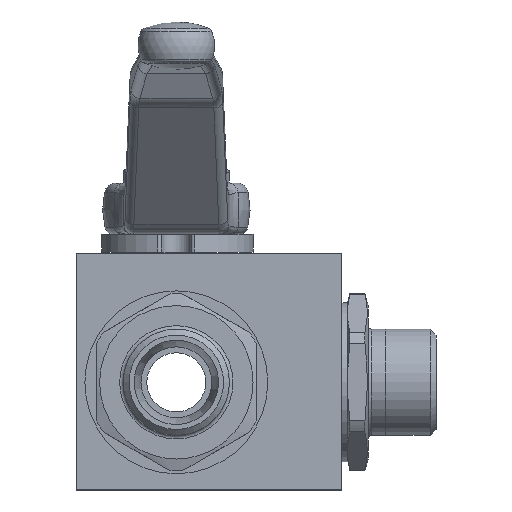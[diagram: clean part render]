
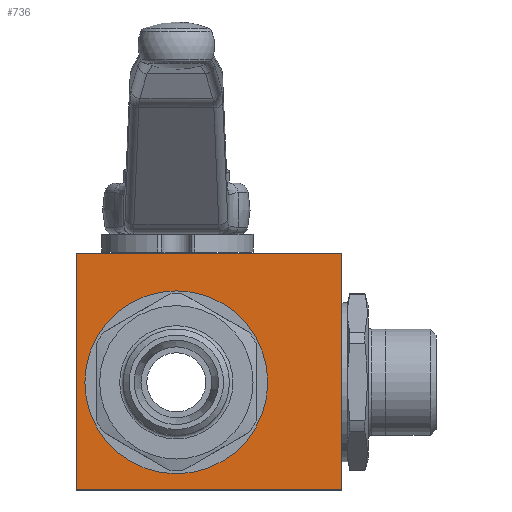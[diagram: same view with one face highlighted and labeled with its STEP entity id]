
A CAD part, front view. The second image highlights one B-rep face of the part: STEP entity #736.
In plain terms, the highlighted planar face has unit normal (0, -1, 0) as drawn and (0, 1, 0) by its records, which use the part's own axes.
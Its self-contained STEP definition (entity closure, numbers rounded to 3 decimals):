
#736 = ADVANCED_FACE( '', ( #1612, #1613 ), #1614, .F. );
#1612 = FACE_BOUND( '', #3035, .T. );
#1613 = FACE_OUTER_BOUND( '', #3036, .T. );
#1614 = PLANE( '', #3037 );
#3035 = EDGE_LOOP( '', ( #5331 ) );
#3036 = EDGE_LOOP( '', ( #5332, #5333, #5334, #5335 ) );
#3037 = AXIS2_PLACEMENT_3D( '', #5336, #5337, #5338 );
#5331 = ORIENTED_EDGE( '', *, *, #7529, .F. );
#5332 = ORIENTED_EDGE( '', *, *, #7855, .F. );
#5333 = ORIENTED_EDGE( '', *, *, #7856, .F. );
#5334 = ORIENTED_EDGE( '', *, *, #7857, .F. );
#5335 = ORIENTED_EDGE( '', *, *, #7858, .F. );
#5336 = CARTESIAN_POINT( '', ( -28., 22.5, -18.25 ) );
#5337 = DIRECTION( '', ( 0., -1., 0. ) );
#5338 = DIRECTION( '', ( 0., 0., -1. ) );
#7529 = EDGE_CURVE( '', #8800, #8800, #8801, .T. );
#7855 = EDGE_CURVE( '', #9340, #9341, #9342, .T. );
#7856 = EDGE_CURVE( '', #9343, #9340, #9344, .T. );
#7857 = EDGE_CURVE( '', #9345, #9343, #9346, .T. );
#7858 = EDGE_CURVE( '', #9341, #9345, #9347, .T. );
#8800 = VERTEX_POINT( '', #10556 );
#8801 = CIRCLE( '', #10557, 15.5 );
#9340 = VERTEX_POINT( '', #11914 );
#9341 = VERTEX_POINT( '', #11915 );
#9342 = LINE( '', #11916, #11917 );
#9343 = VERTEX_POINT( '', #11918 );
#9344 = LINE( '', #11919, #11920 );
#9345 = VERTEX_POINT( '', #11921 );
#9346 = LINE( '', #11922, #11923 );
#9347 = LINE( '', #11924, #11925 );
#10556 = CARTESIAN_POINT( '', ( 15.5, 22.5, 0. ) );
#10557 = AXIS2_PLACEMENT_3D( '', #13904, #13905, #13906 );
#11914 = CARTESIAN_POINT( '', ( -28., 22.5, 21.75 ) );
#11915 = CARTESIAN_POINT( '', ( -28., 22.5, -18.25 ) );
#11916 = CARTESIAN_POINT( '', ( -28., 22.5, 21.75 ) );
#11917 = VECTOR( '', #14311, 1000. );
#11918 = CARTESIAN_POINT( '', ( 17., 22.5, 21.75 ) );
#11919 = CARTESIAN_POINT( '', ( 17., 22.5, 21.75 ) );
#11920 = VECTOR( '', #14312, 1000. );
#11921 = CARTESIAN_POINT( '', ( 17., 22.5, -18.25 ) );
#11922 = CARTESIAN_POINT( '', ( 17., 22.5, -18.25 ) );
#11923 = VECTOR( '', #14313, 1000. );
#11924 = CARTESIAN_POINT( '', ( -28., 22.5, -18.25 ) );
#11925 = VECTOR( '', #14314, 1000. );
#13904 = CARTESIAN_POINT( '', ( 0., 22.5, 0. ) );
#13905 = DIRECTION( '', ( 0., 1., 0. ) );
#13906 = DIRECTION( '', ( 1., 0., 0. ) );
#14311 = DIRECTION( '', ( 0., 0., -1. ) );
#14312 = DIRECTION( '', ( -1., 0., 0. ) );
#14313 = DIRECTION( '', ( 0., 0., 1. ) );
#14314 = DIRECTION( '', ( 1., 0., 0. ) );
